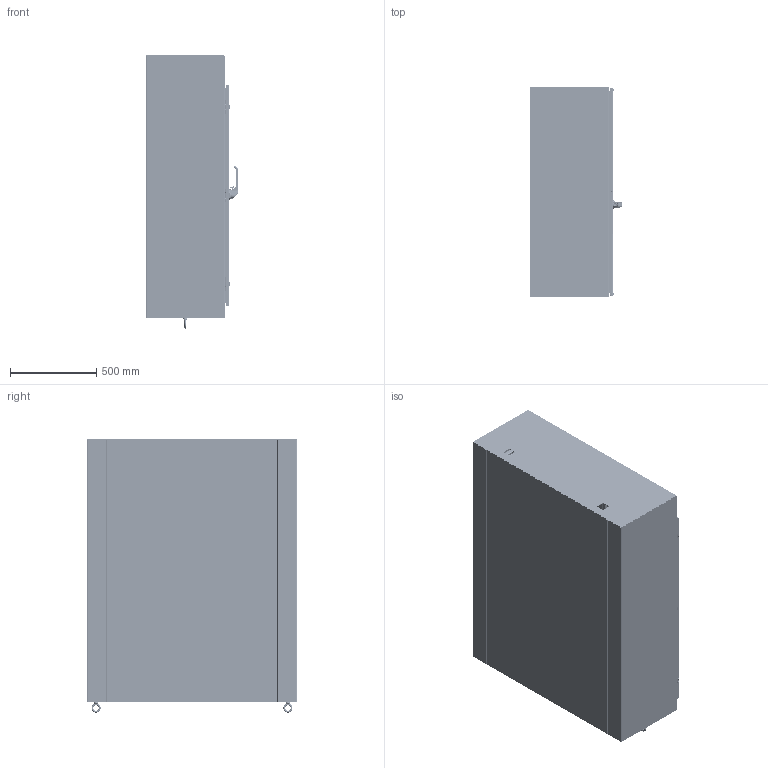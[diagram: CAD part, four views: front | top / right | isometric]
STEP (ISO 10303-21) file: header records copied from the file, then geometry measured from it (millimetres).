
FILE_DESCRIPTION((''),'2;1');
FILE_NAME('MODEL-245_ASM','2021-04-29T08:52:55',('joelb'),('SAGINAW CONTROL & ENGINEERING'),'CREO PARAMETRIC BY PTC INC, 2017260','CREO PARAMETRIC BY PTC INC, 2017260','');
FILE_SCHEMA(('AUTOMOTIVE_DESIGN { 1 0 10303 214 1 1 1 1 }'));
Length unit declared in the file: inch
Products named in the file (60): MODEL-245-L-SD; MODEL-245-TP; MODEL-245-R-SD; MODEL-245-BTM; MODEL-245-BCK; MODEL-245-MSTR; 100837; 111267; 100882; 100954_HANDLE; 100954_HANDLE_INSERT; 100954_SHAFT_CAM; 100954_ADAPTER_CAM; 100954_NUT_CAM; 100954_BASE; 100954_O-RING; 100954_WASHER_SEALING; 100954_NUT_MOUNTING_LARGE; 100954_NUT_MOUNTING_SMALL; 100954_SCREW_SMALL; 100954_INSERT; 100954_PADLOCK_CATCH; 100954_STOP_CAM; 100954_ASM; 102236; 100030; 102236_ASM; MODEL-245-ROD-UPR; 128146; 128145; 128144; 102482; MODEL-245-ROD-UPR_ASM; 128143; 112504; MODEL-245-ROD-LWR; MODEL-245-ROD-LWR_ASM; MODEL-245-PR-GSKT-M; 128257; 126397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
Assembly tree (127 placements, depth 4):
  MODEL-245_ASM
    MODEL-245-L-SD
    MODEL-245-TP
    MODEL-245-R-SD
    MODEL-245-BTM
    MODEL-245-BCK
    MODEL-245-MASTER-DR-ASSY_ASM
      MODEL-245-MSTR
      100837  x5
      111267
      100882  x10
      100954_ASM
        100954_HANDLE
        100954_HANDLE_INSERT
        100954_SHAFT_CAM
        100954_ADAPTER_CAM
        100954_NUT_CAM
        100954_BASE
        100954_O-RING
        100954_WASHER_SEALING
        100954_NUT_MOUNTING_LARGE
        100954_NUT_MOUNTING_SMALL
        100954_SCREW_SMALL
        100954_INSERT
        100954_PADLOCK_CATCH
        100954_STOP_CAM
      102236_ASM
        102236
        100030  x2
      MODEL-245-ROD-UPR_ASM
        MODEL-245-ROD-UPR
        128146
        128145
        128144
        102482  x2
      128143  x2
      112504  x2
      MODEL-245-ROD-LWR_ASM
        MODEL-245-ROD-LWR
        128146
        128145
        128144
        102482  x2
      MODEL-245-PR-GSKT-M
      128257_ASM  x3
        128257
        126397
      126393  x3
      102483  x3
      101369_ASM  x3
        101369
        101369-STUD
      101221  x3
    MODEL-245-SLAVE-DR-ASSY_ASM
      MODEL-245-SLV
      100837
      MODEL-245-PR-GSKT-S
      128257_ASM  x3
        128257
        126397
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Bounding box: 534.37 x 1219.2 x 1585.16 mm (x, y, z)
Volume: 20920671.7 mm3; surface area: 15408163.6 mm2
Topology: 135 solids, 135 shells, 12740 faces, 33392 edges, 21081 vertices
Faces by surface type: plane 4577, cylinder 3628, bspline 2972, cone 676, torus 675, sphere 212
Entity records: 273705 total; most frequent: CARTESIAN_POINT 85093, ORIENTED_EDGE 26604, DIRECTION 25236, PRESENTATION_STYLE_ASSIGNMENT 14950, STYLED_ITEM 14845, CURVE_STYLE 13302, EDGE_CURVE 13302, AXIS2_PLACEMENT_3D 9534
